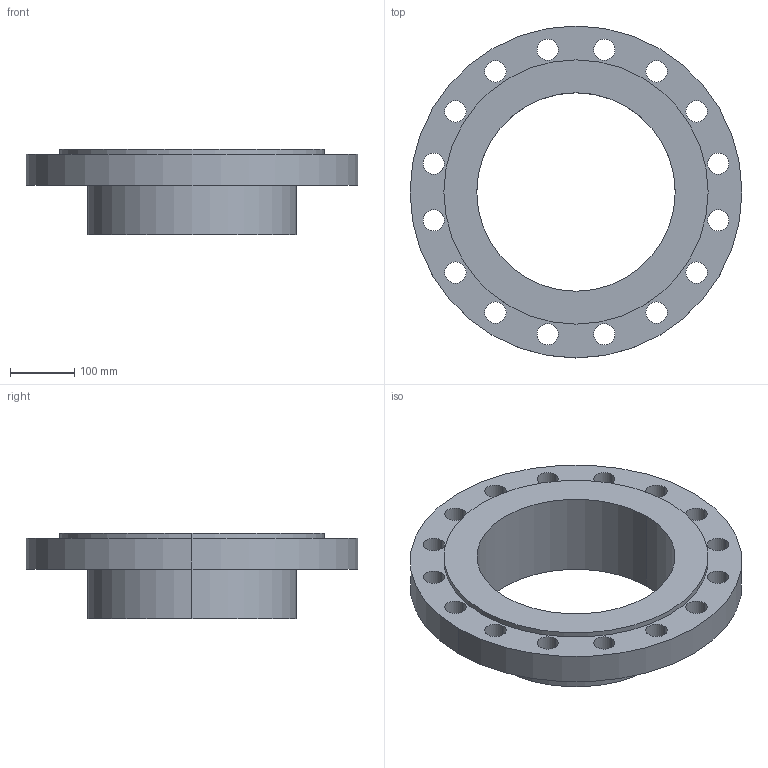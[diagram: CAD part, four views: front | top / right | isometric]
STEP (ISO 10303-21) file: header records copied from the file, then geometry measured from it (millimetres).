
FILE_DESCRIPTION (( 'STEP AP214' ), '1' );
FILE_NAME ('PN40 DN300 Type 02 in 33 - (Type A Face).STEP', '2019-01-05T20:29:15', ( '' ), ( '' ), 'SwSTEP 2.0', 'SolidWorks 2019', '' );
FILE_SCHEMA (( 'AUTOMOTIVE_DESIGN' ));
Length unit declared in the file: millimetre
Products named in the file (1): PN40 DN300 Type 02 in 33 - (Type A Face)
Bounding box: 515 x 515 x 133 mm (x, y, z)
Volume: 6613517.4 mm3; surface area: 794337.8 mm2
Topology: 2 solids, 2 shells, 51 faces, 134 edges, 88 vertices
Faces by surface type: cylinder 42, plane 5, cone 4
Entity records: 1739 total; most frequent: DIRECTION 326, CARTESIAN_POINT 274, ORIENTED_EDGE 268, AXIS2_PLACEMENT_3D 140, EDGE_CURVE 134, CIRCLE 88, EDGE_LOOP 88, VERTEX_POINT 88
